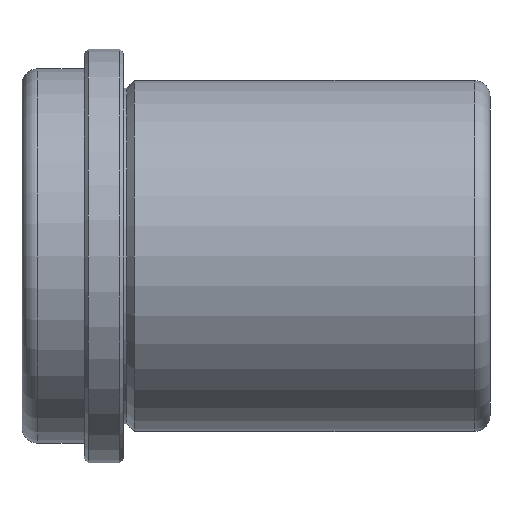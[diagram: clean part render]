
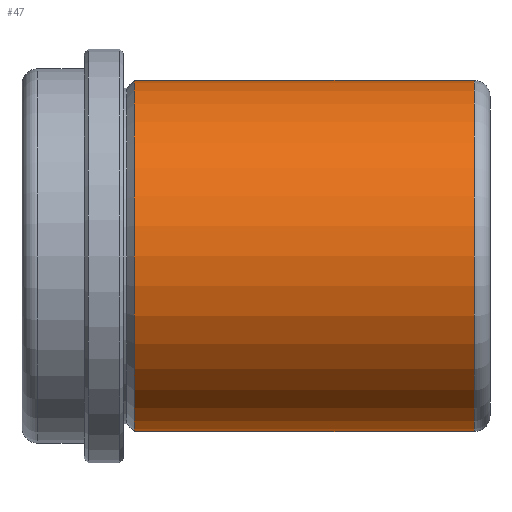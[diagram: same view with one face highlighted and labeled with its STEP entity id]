
A CAD part, front view. The second image highlights one B-rep face of the part: STEP entity #47.
In plain terms, the highlighted cylindrical face has radius 22.5 mm (diameter 45 mm), a full revolution.
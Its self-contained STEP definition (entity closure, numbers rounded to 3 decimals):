
#47 = ADVANCED_FACE( '', ( #106, #107, #108 ), #109, .T. );
#106 = FACE_OUTER_BOUND( '', #191, .T. );
#107 = FACE_BOUND( '', #192, .T. );
#108 = FACE_OUTER_BOUND( '', #193, .T. );
#109 = CYLINDRICAL_SURFACE( '', #194, 22.5 );
#191 = EDGE_LOOP( '', ( #274 ) );
#192 = EDGE_LOOP( '', ( #275 ) );
#193 = EDGE_LOOP( '', ( #276 ) );
#194 = AXIS2_PLACEMENT_3D( '', #277, #278, #279 );
#274 = ORIENTED_EDGE( '', *, *, #384, .T. );
#275 = ORIENTED_EDGE( '', *, *, #385, .T. );
#276 = ORIENTED_EDGE( '', *, *, #386, .F. );
#277 = CARTESIAN_POINT( '', ( 47., 0., 0. ) );
#278 = DIRECTION( '', ( -1., 0., 0. ) );
#279 = DIRECTION( '', ( 0., 0., -1. ) );
#384 = EDGE_CURVE( '', #427, #427, #428, .T. );
#385 = EDGE_CURVE( '', #429, #429, #430, .T. );
#386 = EDGE_CURVE( '', #431, #431, #432, .T. );
#427 = VERTEX_POINT( '', #486 );
#428 = CIRCLE( '', #487, 22.5 );
#429 = VERTEX_POINT( '', #488 );
#430 = B_SPLINE_CURVE_WITH_KNOTS( '', 3, ( #489, #490, #491, #492, #493, #494, #495, #496, #497, #498, #499, #500, #501, #502, #503, #504, #505, #506, #507, #508, #509, #510, #511, #512, #513, #514, #515, #516, #517, #518, #519, #520, #521, #522, #523, #524, #525, #526, #527, #528, #529, #530, #531, #532, #533, #534, #535, #536, #537, #538, #539, #540, #541, #542, #543, #544, #545, #546, #547, #548, #549, #550, #551, #552 ), .UNSPECIFIED., .T., .F., ( 2, 2, 2, 2, 2, 2, 2, 2, 2, 2, 2, 2, 2, 2, 2, 2, 2, 2, 2, 2, 2, 2, 2, 2, 2, 2, 2, 2, 2, 2, 2, 2, 2, 2 ), ( -0.001, 0., 0., 0.001, 0.001, 0.002, 0.002, 0.003, 0.003, 0.004, 0.004, 0.005, 0.005, 0.006, 0.006, 0.007, 0.007, 0.008, 0.008, 0.009, 0.009, 0.01, 0.01, 0.011, 0.011, 0.012, 0.012, 0.013, 0.013, 0.014, 0.014, 0.015, 0.016, 0.016 ), .UNSPECIFIED. );
#431 = VERTEX_POINT( '', #553 );
#432 = CIRCLE( '', #554, 22.5 );
#486 = CARTESIAN_POINT( '', ( 1.414, 0., -22.5 ) );
#487 = AXIS2_PLACEMENT_3D( '', #670, #671, #672 );
#488 = CARTESIAN_POINT( '', ( 16., 22.361, -2.5 ) );
#489 = CARTESIAN_POINT( '', ( 15.669, 22.361, -2.5 ) );
#490 = CARTESIAN_POINT( '', ( 16.165, 22.361, -2.5 ) );
#491 = CARTESIAN_POINT( '', ( 16.328, 22.363, -2.484 ) );
#492 = CARTESIAN_POINT( '', ( 16.647, 22.369, -2.42 ) );
#493 = CARTESIAN_POINT( '', ( 16.806, 22.375, -2.372 ) );
#494 = CARTESIAN_POINT( '', ( 17.109, 22.388, -2.247 ) );
#495 = CARTESIAN_POINT( '', ( 17.253, 22.395, -2.17 ) );
#496 = CARTESIAN_POINT( '', ( 17.524, 22.412, -1.988 ) );
#497 = CARTESIAN_POINT( '', ( 17.653, 22.421, -1.883 ) );
#498 = CARTESIAN_POINT( '', ( 17.883, 22.44, -1.652 ) );
#499 = CARTESIAN_POINT( '', ( 17.987, 22.449, -1.527 ) );
#500 = CARTESIAN_POINT( '', ( 18.169, 22.465, -1.253 ) );
#501 = CARTESIAN_POINT( '', ( 18.247, 22.473, -1.108 ) );
#502 = CARTESIAN_POINT( '', ( 18.372, 22.486, -0.807 ) );
#503 = CARTESIAN_POINT( '', ( 18.42, 22.491, -0.65 ) );
#504 = CARTESIAN_POINT( '', ( 18.484, 22.498, -0.327 ) );
#505 = CARTESIAN_POINT( '', ( 18.5, 22.5, -0.165 ) );
#506 = CARTESIAN_POINT( '', ( 18.5, 22.5, 0.162 ) );
#507 = CARTESIAN_POINT( '', ( 18.484, 22.498, 0.328 ) );
#508 = CARTESIAN_POINT( '', ( 18.42, 22.491, 0.648 ) );
#509 = CARTESIAN_POINT( '', ( 18.373, 22.486, 0.804 ) );
#510 = CARTESIAN_POINT( '', ( 18.248, 22.473, 1.107 ) );
#511 = CARTESIAN_POINT( '', ( 18.169, 22.465, 1.253 ) );
#512 = CARTESIAN_POINT( '', ( 17.988, 22.449, 1.524 ) );
#513 = CARTESIAN_POINT( '', ( 17.885, 22.44, 1.65 ) );
#514 = CARTESIAN_POINT( '', ( 17.652, 22.421, 1.884 ) );
#515 = CARTESIAN_POINT( '', ( 17.526, 22.412, 1.987 ) );
#516 = CARTESIAN_POINT( '', ( 17.255, 22.395, 2.168 ) );
#517 = CARTESIAN_POINT( '', ( 17.109, 22.388, 2.247 ) );
#518 = CARTESIAN_POINT( '', ( 16.806, 22.375, 2.372 ) );
#519 = CARTESIAN_POINT( '', ( 16.65, 22.37, 2.419 ) );
#520 = CARTESIAN_POINT( '', ( 16.33, 22.363, 2.484 ) );
#521 = CARTESIAN_POINT( '', ( 16.164, 22.361, 2.5 ) );
#522 = CARTESIAN_POINT( '', ( 15.838, 22.361, 2.5 ) );
#523 = CARTESIAN_POINT( '', ( 15.675, 22.362, 2.484 ) );
#524 = CARTESIAN_POINT( '', ( 15.353, 22.369, 2.42 ) );
#525 = CARTESIAN_POINT( '', ( 15.195, 22.375, 2.372 ) );
#526 = CARTESIAN_POINT( '', ( 14.894, 22.388, 2.248 ) );
#527 = CARTESIAN_POINT( '', ( 14.748, 22.395, 2.17 ) );
#528 = CARTESIAN_POINT( '', ( 14.475, 22.412, 1.988 ) );
#529 = CARTESIAN_POINT( '', ( 14.349, 22.421, 1.885 ) );
#530 = CARTESIAN_POINT( '', ( 14.119, 22.439, 1.654 ) );
#531 = CARTESIAN_POINT( '', ( 14.013, 22.449, 1.526 ) );
#532 = CARTESIAN_POINT( '', ( 13.831, 22.465, 1.254 ) );
#533 = CARTESIAN_POINT( '', ( 13.754, 22.473, 1.111 ) );
#534 = CARTESIAN_POINT( '', ( 13.629, 22.486, 0.808 ) );
#535 = CARTESIAN_POINT( '', ( 13.58, 22.491, 0.65 ) );
#536 = CARTESIAN_POINT( '', ( 13.517, 22.498, 0.33 ) );
#537 = CARTESIAN_POINT( '', ( 13.5, 22.5, 0.168 ) );
#538 = CARTESIAN_POINT( '', ( 13.5, 22.5, -0.163 ) );
#539 = CARTESIAN_POINT( '', ( 13.516, 22.498, -0.326 ) );
#540 = CARTESIAN_POINT( '', ( 13.579, 22.491, -0.645 ) );
#541 = CARTESIAN_POINT( '', ( 13.627, 22.486, -0.804 ) );
#542 = CARTESIAN_POINT( '', ( 13.752, 22.473, -1.107 ) );
#543 = CARTESIAN_POINT( '', ( 13.829, 22.466, -1.251 ) );
#544 = CARTESIAN_POINT( '', ( 14.01, 22.449, -1.522 ) );
#545 = CARTESIAN_POINT( '', ( 14.116, 22.44, -1.651 ) );
#546 = CARTESIAN_POINT( '', ( 14.346, 22.421, -1.882 ) );
#547 = CARTESIAN_POINT( '', ( 14.472, 22.412, -1.985 ) );
#548 = CARTESIAN_POINT( '', ( 14.745, 22.395, -2.168 ) );
#549 = CARTESIAN_POINT( '', ( 14.89, 22.388, -2.246 ) );
#550 = CARTESIAN_POINT( '', ( 15.341, 22.368, -2.433 ) );
#551 = CARTESIAN_POINT( '', ( 15.669, 22.361, -2.5 ) );
#552 = CARTESIAN_POINT( '', ( 16.165, 22.361, -2.5 ) );
#553 = CARTESIAN_POINT( '', ( 45., 0., -22.5 ) );
#554 = AXIS2_PLACEMENT_3D( '', #673, #674, #675 );
#670 = CARTESIAN_POINT( '', ( 1.414, 0., 0. ) );
#671 = DIRECTION( '', ( 1., 0., 0. ) );
#672 = DIRECTION( '', ( 0., 0., -1. ) );
#673 = CARTESIAN_POINT( '', ( 45., 0., 0. ) );
#674 = DIRECTION( '', ( 1., 0., 0. ) );
#675 = DIRECTION( '', ( 0., 0., -1. ) );
